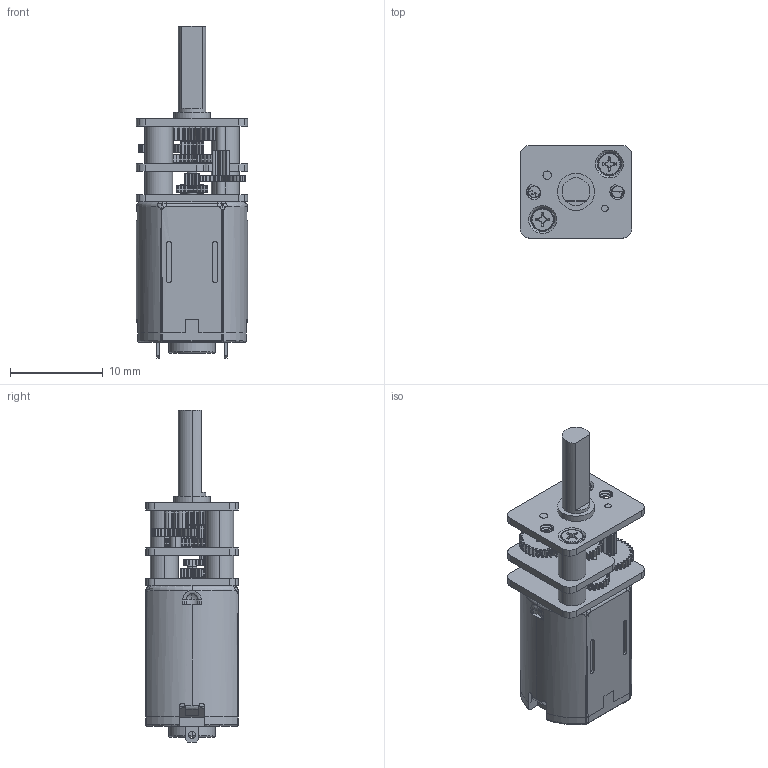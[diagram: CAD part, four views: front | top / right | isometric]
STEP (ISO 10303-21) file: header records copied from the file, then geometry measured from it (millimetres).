
FILE_DESCRIPTION (( 'STEP AP214' ), '1' );
FILE_NAME ('Motor.STEP', '2026-08-22T12:13:19', ( '' ), ( '' ), 'SwSTEP 2.0', 'SolidWorks 2026', '' );
FILE_SCHEMA (( 'AUTOMOTIVE_DESIGN' ));
Length unit declared in the file: millimetre
Products named in the file (17): Gearbox.step; Motor; M1.4 10mm half thread.step; 10T 34T.step; Motor.step; Shaft.step; 15T.step; Screw.step; N20 Motor v1.step; 8T 33T.step; Gearbox Casing.step; 9T 21T.step; 15T 37T.step; DC Gear Motor N20 12GA.step; Geartrain.step; Gearbox 12GA v2.step; 27T.step
Assembly tree (17 placements, depth 6):
  Motor
    DC Gear Motor N20 12GA.step
      Gearbox 12GA v2.step
        Gearbox.step
          Screw.step
            M1.4 10mm half thread.step  x2
          Gearbox Casing.step
        Geartrain.step
          15T.step
          9T 21T.step
          10T 34T.step
          15T 37T.step
          8T 33T.step
          27T.step
      N20 Motor v1.step
        Motor.step
        Shaft.step
Bounding box: 12 x 10 x 35.85 mm (x, y, z)
Volume: 2099.9 mm3; surface area: 2906.7 mm2
Topology: 17 solids, 17 shells, 2269 faces, 6518 edges, 4323 vertices
Faces by surface type: cylinder 1101, bspline 606, plane 484, cone 58, torus 16, sphere 4
Full cylindrical faces by diameter (mm): 9 x1
Entity records: 152543 total; most frequent: CARTESIAN_POINT 98389, ORIENTED_EDGE 12400, DIRECTION 9718, EDGE_CURVE 6200, VERTEX_POINT 4112, AXIS2_PLACEMENT_3D 3486, VECTOR 2746, LINE 2746
